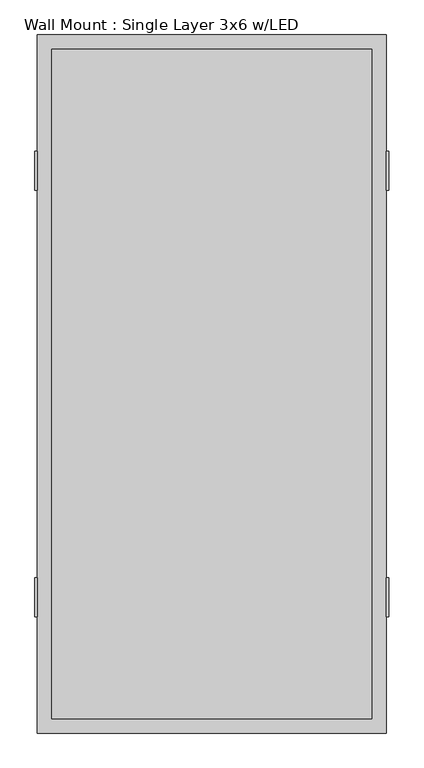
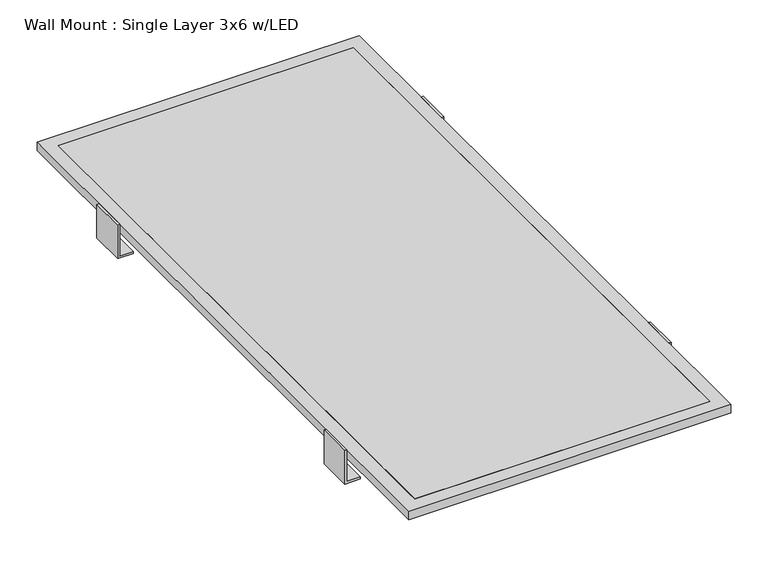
"""IFC4 building model written with IfcOpenShell, lengths in millimetres: proxy geometry, Wall Mount : Single Layer 3x6 w/LED."""

from ifc_helpers import new_model, si_unit, frame, origin, place, context, project, spatial, polyline, outline, extrude, source, transform, mapped, element, save


def wall_mount_single_layer_3x6_w_led_26e74e4a(model_context):
    return source(origin(), model_context, "Body", "SweptSolid", [
        extrude(outline(polyline([(419.1, 876.3), (419.1, -876.3), (-419.1, -876.3), (-419.1, 876.3), (419.1, 876.3)])), frame((0.0, 0.0, 76.2), z_axis=(0.0, 0.0, 1.0), x_axis=(1.0, 0.0, 0.0)), (0.0, 0.0, 1.0), 25.4),
        extrude(outline(polyline([(419.1, 876.3), (419.1, -876.3), (-419.1, -876.3), (-419.1, 876.3), (419.1, 876.3)]), holes=[polyline([(412.75, 869.95), (-412.75, 869.95), (-412.75, -869.95), (412.75, -869.95), (412.75, 869.95)])]), frame((0.0, 0.0, 79.375), z_axis=(0.0, 0.0, 1.0), x_axis=(1.0, 0.0, 0.0)), (0.0, 0.0, 1.0), 4.7625),
        extrude(outline(polyline([(0.0, -463.55), (0.0, -419.1), (6.35, -419.1), (6.35, -457.2), (101.6, -457.2), (101.6, -463.55), (0.0, -463.55)])), frame((0.0, 508.0, 0.0), z_axis=(0.0, 1.0, 0.0), x_axis=(0.0, 0.0, 1.0)), (0.0, 0.0, 1.0), 101.6),
        extrude(outline(polyline([(0.0, 463.55), (101.6, 463.55), (101.6, 457.2), (6.35, 457.2), (6.35, 419.1), (0.0, 419.1), (0.0, 463.55)])), frame((0.0, 508.0, 0.0), z_axis=(0.0, 1.0, 0.0), x_axis=(0.0, 0.0, 1.0)), (0.0, 0.0, 1.0), 101.6),
        extrude(outline(polyline([(0.0, -463.55), (0.0, -419.1), (6.35, -419.1), (6.35, -457.2), (101.6, -457.2), (101.6, -463.55), (0.0, -463.55)])), frame((0.0, -609.6, 0.0), z_axis=(0.0, 1.0, 0.0), x_axis=(0.0, 0.0, 1.0)), (0.0, 0.0, 1.0), 101.6),
        extrude(outline(polyline([(0.0, 463.55), (101.6, 463.55), (101.6, 457.2), (6.35, 457.2), (6.35, 419.1), (0.0, 419.1), (0.0, 463.55)])), frame((0.0, -609.6, 0.0), z_axis=(0.0, 1.0, 0.0), x_axis=(0.0, 0.0, 1.0)), (0.0, 0.0, 1.0), 101.6),
        extrude(outline(polyline([(419.1, 876.3), (419.1, -876.3), (-419.1, -876.3), (-419.1, 876.3), (419.1, 876.3)])), frame((0.0, 0.0, 84.1375), z_axis=(0.0, 0.0, 1.0), x_axis=(1.0, 0.0, 0.0)), (0.0, 0.0, 1.0), 6.35),
        extrude(outline(polyline([(457.2, 914.4), (457.2, -914.4), (-457.2, -914.4), (-457.2, 914.4), (457.2, 914.4)]), holes=[polyline([(419.1, 876.3), (-419.1, 876.3), (-419.1, -876.3), (419.1, -876.3), (419.1, 876.3)])]), frame((0.0, 0.0, 76.2), z_axis=(0.0, 0.0, 1.0), x_axis=(1.0, 0.0, 0.0)), (0.0, 0.0, 1.0), 25.4),
    ])


if __name__ == "__main__":
    model = new_model("IFC4")
    model_context = context("Model", 3, world=origin())
    ifc_project = project(units=[si_unit("LENGTHUNIT", "METRE", prefix="MILLI")], contexts=[model_context])
    site = spatial("IfcSite", under=ifc_project)
    building = spatial("IfcBuilding", under=site)
    placement = place(None, origin())
    wall_mount_single_layer_3x6_w_led_shape = wall_mount_single_layer_3x6_w_led_26e74e4a(model_context)
    element("IfcBuildingElementProxy", 1, Name="Wall Mount : Single Layer 3x6 w/LED", ObjectType="Wall Mount : Single Layer 3x6 w/LED", at=placement, inside=building, context=model_context, shape_type="MappedRepresentation", body=[
        mapped(wall_mount_single_layer_3x6_w_led_shape, transform((0.0, 0.0, 0.0), x_axis=(1.0, 0.0, 0.0), y_axis=(0.0, 1.0, 0.0), z_axis=(0.0, 0.0, 1.0))),
    ])
    save(model, "model.ifc")
